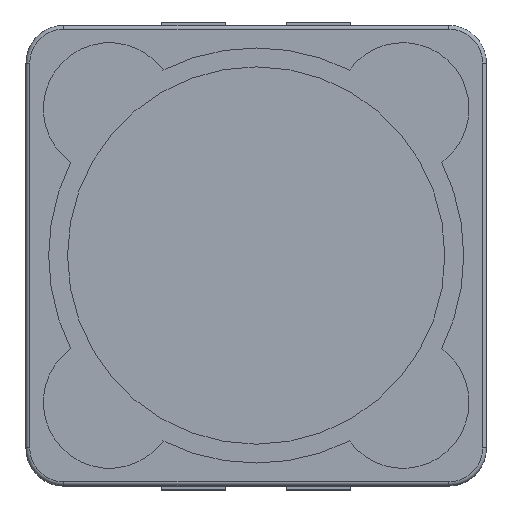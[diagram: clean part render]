
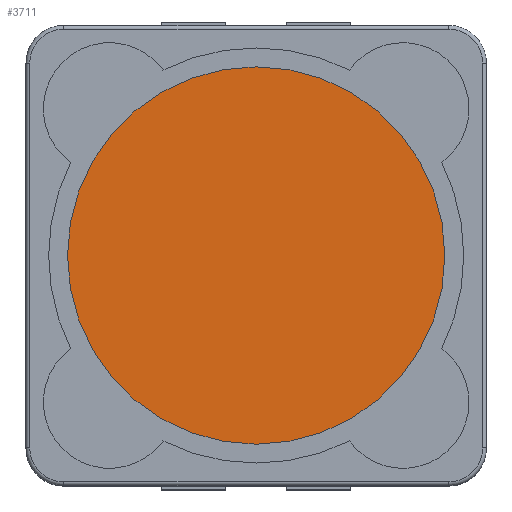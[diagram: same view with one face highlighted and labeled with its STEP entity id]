
A CAD part, top view. The second image highlights one B-rep face of the part: STEP entity #3711.
In plain terms, the highlighted planar face has unit normal (0, 0, 1).
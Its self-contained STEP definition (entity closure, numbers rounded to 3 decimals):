
#1588 = VERTEX_POINT('',#1589);
#1589 = CARTESIAN_POINT('',(-4.995,0.,
    8.1));
#1595 = EDGE_CURVE('',#1596,#1588,#1598,.T.);
#1596 = VERTEX_POINT('',#1597);
#1597 = CARTESIAN_POINT('',(5.005,0.,
    8.1));
#1598 = CIRCLE('',#1599,5.);
#1599 = AXIS2_PLACEMENT_3D('',#1600,#1601,#1602);
#1600 = CARTESIAN_POINT('',(0.005,0.,
    8.1));
#1601 = DIRECTION('',(0.,0.,1.));
#1602 = DIRECTION('',(1.,0.,-0.));
#3700 = EDGE_CURVE('',#1588,#1596,#3701,.T.);
#3701 = CIRCLE('',#3702,5.);
#3702 = AXIS2_PLACEMENT_3D('',#3703,#3704,#3705);
#3703 = CARTESIAN_POINT('',(0.005,0.,
    8.1));
#3704 = DIRECTION('',(0.,0.,1.));
#3705 = DIRECTION('',(1.,0.,-0.));
#3711 = ADVANCED_FACE('',(#3712),#3716,.F.);
#3712 = FACE_BOUND('',#3713,.T.);
#3713 = EDGE_LOOP('',(#3714,#3715));
#3714 = ORIENTED_EDGE('',*,*,#1595,.T.);
#3715 = ORIENTED_EDGE('',*,*,#3700,.T.);
#3716 = PLANE('',#3717);
#3717 = AXIS2_PLACEMENT_3D('',#3718,#3719,#3720);
#3718 = CARTESIAN_POINT('',(5.105,5.1,8.1
    ));
#3719 = DIRECTION('',(0.,0.,-1.));
#3720 = DIRECTION('',(-1.,0.,0.));
